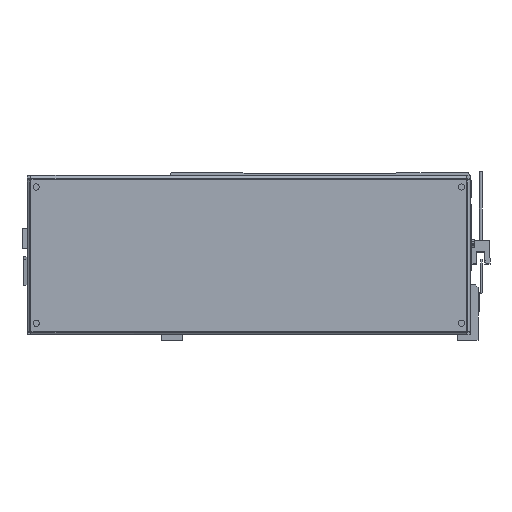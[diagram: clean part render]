
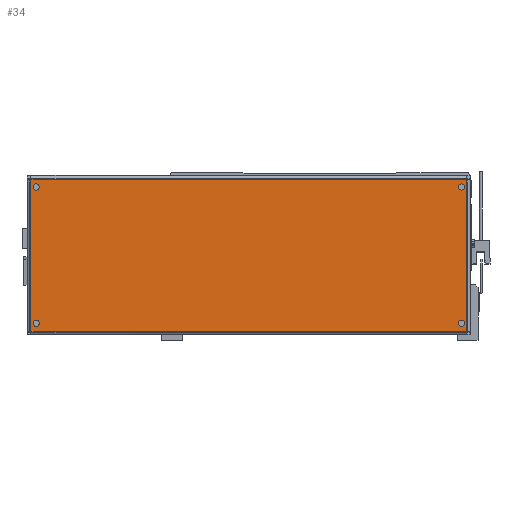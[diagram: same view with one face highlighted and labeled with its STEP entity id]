
A CAD part, front view. The second image highlights one B-rep face of the part: STEP entity #34.
In plain terms, the highlighted planar face has unit normal (0, -1, 0) as drawn and (0, 0, 1) by its records, which use the part's own axes.
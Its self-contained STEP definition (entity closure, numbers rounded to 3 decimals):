
#34 = ADVANCED_FACE ( 'NONE', ( #14990, #13070, #26775, #24395, #27577 ), #7560, .T. ) ;
#39 = EDGE_CURVE ( 'NONE', #7884, #2936, #11857, .T. ) ;
#85 = DIRECTION ( 'NONE',  ( 1., 0., 0. ) ) ;
#240 = DIRECTION ( 'NONE',  ( 0., 0., 1. ) ) ;
#467 = EDGE_LOOP ( 'NONE', ( #28246, #6945 ) ) ;
#1313 = VECTOR ( 'NONE', #24483, 1000. ) ;
#1347 = VERTEX_POINT ( 'NONE', #17182 ) ;
#1454 = CARTESIAN_POINT ( 'NONE',  ( -101.992, -72.133, 72. ) ) ;
#1559 = CARTESIAN_POINT ( 'NONE',  ( 214.535, 38.394, 72. ) ) ;
#2162 = VERTEX_POINT ( 'NONE', #30819 ) ;
#2916 = CIRCLE ( 'NONE', #5399, 2.25 ) ;
#2936 = VERTEX_POINT ( 'NONE', #9262 ) ;
#3173 = CIRCLE ( 'NONE', #30656, 2.25 ) ;
#3343 = LINE ( 'NONE', #5161, #29303 ) ;
#3776 = EDGE_CURVE ( 'NONE', #15957, #1347, #30308, .T. ) ;
#4301 = DIRECTION ( 'NONE',  ( 1., 0., 0. ) ) ;
#4305 = DIRECTION ( 'NONE',  ( 1., 0., 0. ) ) ;
#4339 = CARTESIAN_POINT ( 'NONE',  ( 208.521, -66.37, 72. ) ) ;
#4978 = CARTESIAN_POINT ( 'NONE',  ( -95.979, 32.63, 72. ) ) ;
#5136 = CARTESIAN_POINT ( 'NONE',  ( -102.022, -72.133, 72. ) ) ;
#5161 = CARTESIAN_POINT ( 'NONE',  ( 214.535, -72.163, 72. ) ) ;
#5377 = AXIS2_PLACEMENT_3D ( 'NONE', #20460, #25972, #20561 ) ;
#5393 = DIRECTION ( 'NONE',  ( 1., 0., 0. ) ) ;
#5399 = AXIS2_PLACEMENT_3D ( 'NONE', #9411, #14687, #17328 ) ;
#5987 = EDGE_CURVE ( 'NONE', #25368, #19439, #8970, .T. ) ;
#6078 = AXIS2_PLACEMENT_3D ( 'NONE', #30215, #24950, #85 ) ;
#6261 = VERTEX_POINT ( 'NONE', #1559 ) ;
#6754 = VERTEX_POINT ( 'NONE', #23741 ) ;
#6945 = ORIENTED_EDGE ( 'NONE', *, *, #5987, .F. ) ;
#7560 = PLANE ( 'NONE',  #6078 ) ;
#7685 = DIRECTION ( 'NONE',  ( 0., 1., 0. ) ) ;
#7851 = DIRECTION ( 'NONE',  ( 0., 0., 1. ) ) ;
#7884 = VERTEX_POINT ( 'NONE', #1454 ) ;
#7929 = AXIS2_PLACEMENT_3D ( 'NONE', #31540, #29224, #11265 ) ;
#8024 = EDGE_CURVE ( 'NONE', #8613, #6754, #2916, .T. ) ;
#8167 = CARTESIAN_POINT ( 'NONE',  ( -101.992, 38.394, 72. ) ) ;
#8613 = VERTEX_POINT ( 'NONE', #23250 ) ;
#8970 = CIRCLE ( 'NONE', #21589, 2.25 ) ;
#9262 = CARTESIAN_POINT ( 'NONE',  ( 214.535, -72.133, 72. ) ) ;
#9411 = CARTESIAN_POINT ( 'NONE',  ( 210.771, 32.63, 72. ) ) ;
#10634 = EDGE_LOOP ( 'NONE', ( #13568, #28864 ) ) ;
#10855 = CIRCLE ( 'NONE', #22139, 2.25 ) ;
#11265 = DIRECTION ( 'NONE',  ( 1., 0., 0. ) ) ;
#11484 = VECTOR ( 'NONE', #12582, 1000. ) ;
#11606 = CIRCLE ( 'NONE', #7929, 2.25 ) ;
#11857 = LINE ( 'NONE', #5136, #11484 ) ;
#12259 = ORIENTED_EDGE ( 'NONE', *, *, #13106, .T. ) ;
#12582 = DIRECTION ( 'NONE',  ( 1., 0., 0. ) ) ;
#12988 = CARTESIAN_POINT ( 'NONE',  ( -101.992, 38.423, 72. ) ) ;
#13070 = FACE_BOUND ( 'NONE', #24157, .T. ) ;
#13106 = EDGE_CURVE ( 'NONE', #2936, #6261, #3343, .T. ) ;
#13568 = ORIENTED_EDGE ( 'NONE', *, *, #3776, .F. ) ;
#14028 = CARTESIAN_POINT ( 'NONE',  ( 210.771, 32.63, 72. ) ) ;
#14687 = DIRECTION ( 'NONE',  ( 0., 0., 1. ) ) ;
#14880 = DIRECTION ( 'NONE',  ( 0., 0., 1. ) ) ;
#14990 = FACE_BOUND ( 'NONE', #467, .T. ) ;
#15693 = CARTESIAN_POINT ( 'NONE',  ( 210.771, -66.37, 72. ) ) ;
#15801 = DIRECTION ( 'NONE',  ( 1., 0., 0. ) ) ;
#15957 = VERTEX_POINT ( 'NONE', #23758 ) ;
#16199 = EDGE_CURVE ( 'NONE', #19439, #25368, #3173, .T. ) ;
#16268 = AXIS2_PLACEMENT_3D ( 'NONE', #28053, #20437, #5393 ) ;
#16404 = ORIENTED_EDGE ( 'NONE', *, *, #23713, .F. ) ;
#16734 = VERTEX_POINT ( 'NONE', #4978 ) ;
#16881 = EDGE_CURVE ( 'NONE', #16734, #2162, #23706, .T. ) ;
#17182 = CARTESIAN_POINT ( 'NONE',  ( -100.479, -66.37, 72. ) ) ;
#17247 = ORIENTED_EDGE ( 'NONE', *, *, #26702, .T. ) ;
#17328 = DIRECTION ( 'NONE',  ( 1., 0., 0. ) ) ;
#17875 = DIRECTION ( 'NONE',  ( 1., 0., 0. ) ) ;
#19439 = VERTEX_POINT ( 'NONE', #28005 ) ;
#19775 = CIRCLE ( 'NONE', #16268, 2.25 ) ;
#19932 = VERTEX_POINT ( 'NONE', #8167 ) ;
#20437 = DIRECTION ( 'NONE',  ( 0., 0., 1. ) ) ;
#20460 = CARTESIAN_POINT ( 'NONE',  ( -98.229, 32.63, 72. ) ) ;
#20561 = DIRECTION ( 'NONE',  ( 1., 0., 0. ) ) ;
#20605 = EDGE_LOOP ( 'NONE', ( #30078, #17247, #20758, #12259 ) ) ;
#20638 = VECTOR ( 'NONE', #28317, 1000. ) ;
#20758 = ORIENTED_EDGE ( 'NONE', *, *, #39, .T. ) ;
#21398 = EDGE_CURVE ( 'NONE', #6754, #8613, #10855, .T. ) ;
#21589 = AXIS2_PLACEMENT_3D ( 'NONE', #15693, #7851, #15801 ) ;
#21851 = ORIENTED_EDGE ( 'NONE', *, *, #21398, .F. ) ;
#22139 = AXIS2_PLACEMENT_3D ( 'NONE', #14028, #31570, #4305 ) ;
#22248 = LINE ( 'NONE', #12988, #20638 ) ;
#22532 = EDGE_LOOP ( 'NONE', ( #24146, #16404 ) ) ;
#23250 = CARTESIAN_POINT ( 'NONE',  ( 213.021, 32.63, 72. ) ) ;
#23706 = CIRCLE ( 'NONE', #5377, 2.25 ) ;
#23713 = EDGE_CURVE ( 'NONE', #2162, #16734, #11606, .T. ) ;
#23741 = CARTESIAN_POINT ( 'NONE',  ( 208.521, 32.63, 72. ) ) ;
#23758 = CARTESIAN_POINT ( 'NONE',  ( -95.979, -66.37, 72. ) ) ;
#24146 = ORIENTED_EDGE ( 'NONE', *, *, #16881, .F. ) ;
#24157 = EDGE_LOOP ( 'NONE', ( #31336, #21851 ) ) ;
#24395 = FACE_BOUND ( 'NONE', #10634, .T. ) ;
#24483 = DIRECTION ( 'NONE',  ( -1., 0., 0. ) ) ;
#24924 = AXIS2_PLACEMENT_3D ( 'NONE', #30162, #240, #17875 ) ;
#24950 = DIRECTION ( 'NONE',  ( 0., 0., 1. ) ) ;
#25368 = VERTEX_POINT ( 'NONE', #4339 ) ;
#25972 = DIRECTION ( 'NONE',  ( 0., 0., 1. ) ) ;
#26702 = EDGE_CURVE ( 'NONE', #19932, #7884, #22248, .T. ) ;
#26708 = CARTESIAN_POINT ( 'NONE',  ( 214.564, 38.394, 72. ) ) ;
#26775 = FACE_BOUND ( 'NONE', #22532, .T. ) ;
#27424 = EDGE_CURVE ( 'NONE', #6261, #19932, #31996, .T. ) ;
#27577 = FACE_OUTER_BOUND ( 'NONE', #20605, .T. ) ;
#28005 = CARTESIAN_POINT ( 'NONE',  ( 213.021, -66.37, 72. ) ) ;
#28053 = CARTESIAN_POINT ( 'NONE',  ( -98.229, -66.37, 72. ) ) ;
#28246 = ORIENTED_EDGE ( 'NONE', *, *, #16199, .F. ) ;
#28317 = DIRECTION ( 'NONE',  ( 0., -1., 0. ) ) ;
#28864 = ORIENTED_EDGE ( 'NONE', *, *, #32066, .F. ) ;
#29224 = DIRECTION ( 'NONE',  ( 0., 0., 1. ) ) ;
#29303 = VECTOR ( 'NONE', #7685, 1000. ) ;
#29912 = CARTESIAN_POINT ( 'NONE',  ( 210.771, -66.37, 72. ) ) ;
#30078 = ORIENTED_EDGE ( 'NONE', *, *, #27424, .T. ) ;
#30162 = CARTESIAN_POINT ( 'NONE',  ( -98.229, -66.37, 72. ) ) ;
#30215 = CARTESIAN_POINT ( 'NONE',  ( -76.079, -40.83, 72. ) ) ;
#30308 = CIRCLE ( 'NONE', #24924, 2.25 ) ;
#30656 = AXIS2_PLACEMENT_3D ( 'NONE', #29912, #14880, #4301 ) ;
#30819 = CARTESIAN_POINT ( 'NONE',  ( -100.479, 32.63, 72. ) ) ;
#31336 = ORIENTED_EDGE ( 'NONE', *, *, #8024, .F. ) ;
#31540 = CARTESIAN_POINT ( 'NONE',  ( -98.229, 32.63, 72. ) ) ;
#31570 = DIRECTION ( 'NONE',  ( 0., 0., 1. ) ) ;
#31996 = LINE ( 'NONE', #26708, #1313 ) ;
#32066 = EDGE_CURVE ( 'NONE', #1347, #15957, #19775, .T. ) ;
